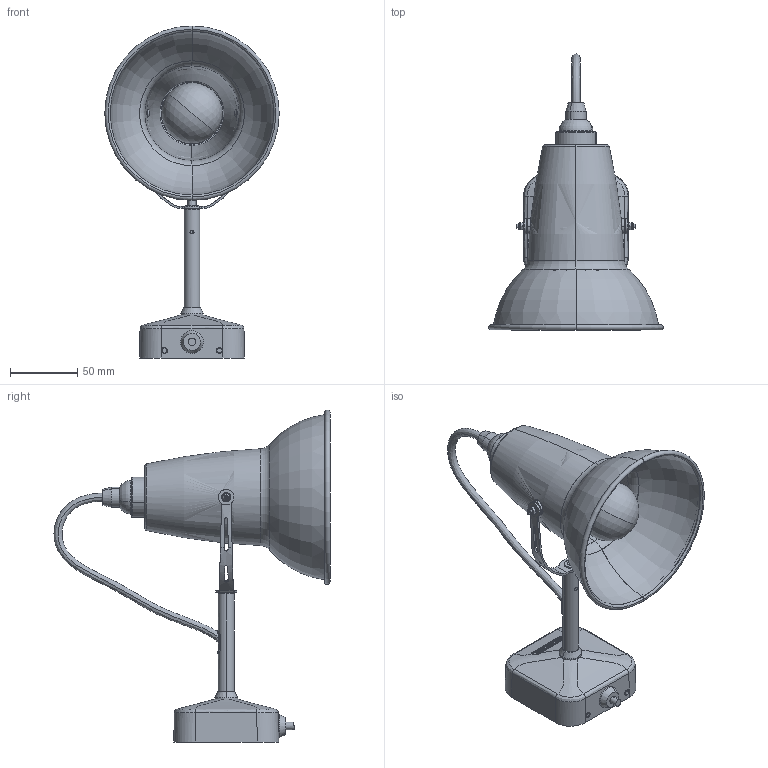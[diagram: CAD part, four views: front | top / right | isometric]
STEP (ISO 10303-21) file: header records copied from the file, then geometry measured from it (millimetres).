
FILE_DESCRIPTION (( 'STEP AP214' ), '1' );
FILE_NAME ('Original_1227_Mini_Wall_Light_STEP_01.STEP', '2016-12-07T09:38:35', ( '' ), ( '' ), 'SwSTEP 2.0', 'SolidWorks 2015', '' );
FILE_SCHEMA (( 'AUTOMOTIVE_DESIGN' ));
Length unit declared in the file: millimetre
Products named in the file (1): Original_1227_Mini_Wall_Light_STEP_01
Bounding box: 130 x 205.73 x 247.45 mm (x, y, z)
Volume: 291064.1 mm3; surface area: 123531.7 mm2
Topology: 3 solids, 3 shells, 655 faces, 1604 edges, 997 vertices
Faces by surface type: plane 202, bspline 191, cylinder 144, torus 71, sphere 24, cone 23
Entity records: 31587 total; most frequent: CARTESIAN_POINT 13119, ORIENTED_EDGE 3182, DIRECTION 2579, EDGE_CURVE 1591, VERTEX_POINT 994, AXIS2_PLACEMENT_3D 978, EDGE_LOOP 727, FACE_OUTER_BOUND 655
